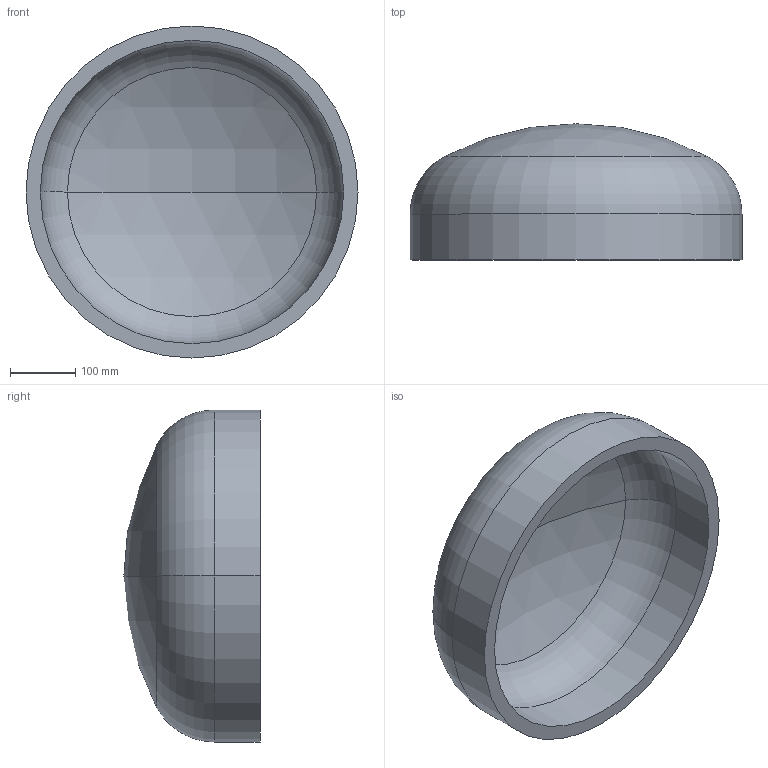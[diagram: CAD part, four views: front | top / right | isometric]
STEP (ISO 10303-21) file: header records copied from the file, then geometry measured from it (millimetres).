
FILE_DESCRIPTION (( 'STEP AP203' ), '1' );
FILE_NAME ('DIN 28013 Korbbogenform_-_Boden DIN 28013 - 508 x 70 - I - s=22.step', '2016-07-01T07:53:12', ( '' ), ( '' ), 'SwSTEP 2.0', 'SolidWorks 2013', '' );
FILE_SCHEMA (( 'CONFIG_CONTROL_DESIGN' ));
Length unit declared in the file: millimetre
Products named in the file (1): DIN 28013 Korbbogenform_-_Boden DIN 28013 - 508 x 70 - I - s=22
Bounding box: 508 x 208.4 x 508 mm (x, y, z)
Volume: 8187719.2 mm3; surface area: 778941.5 mm2
Topology: 1 solids, 1 shells, 13 faces, 24 edges, 14 vertices
Faces by surface type: torus 4, cylinder 4, sphere 4, plane 1
Entity records: 407 total; most frequent: DIRECTION 72, CARTESIAN_POINT 52, ORIENTED_EDGE 48, AXIS2_PLACEMENT_3D 34, EDGE_CURVE 24, CIRCLE 20, VERTEX_POINT 14, EDGE_LOOP 14
